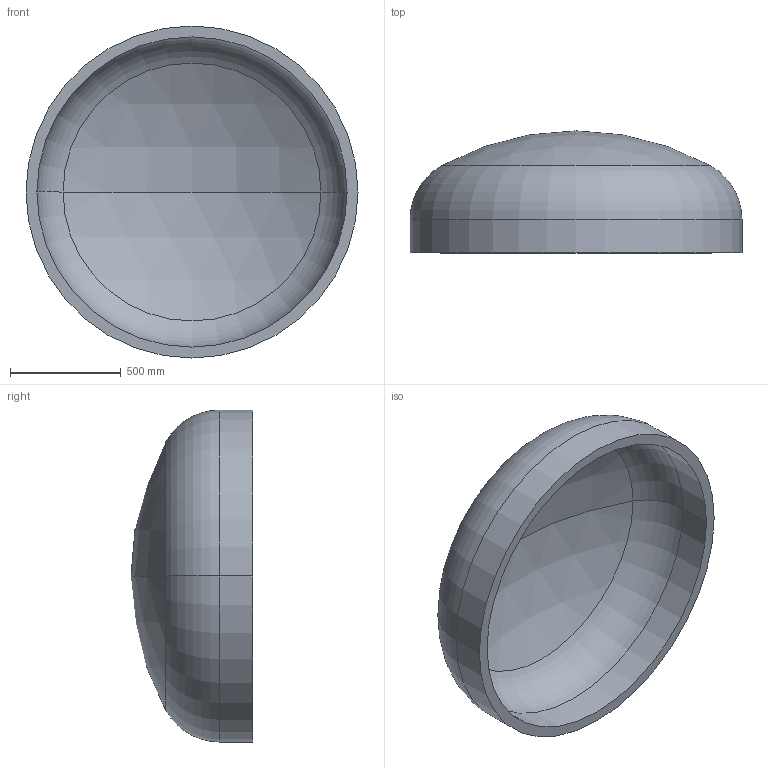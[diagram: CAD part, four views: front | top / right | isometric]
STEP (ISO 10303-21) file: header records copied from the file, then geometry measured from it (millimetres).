
FILE_DESCRIPTION (( 'STEP AP203' ), '1' );
FILE_NAME ('DIN 28013 Korbbogenform_-_Boden DIN 28013 - 1500 x 150 - I - s=49.step', '2016-07-01T10:48:42', ( '' ), ( '' ), 'SwSTEP 2.0', 'SolidWorks 2013', '' );
FILE_SCHEMA (( 'CONFIG_CONTROL_DESIGN' ));
Length unit declared in the file: millimetre
Products named in the file (1): DIN 28013 Korbbogenform_-_Boden DIN 28013 - 1500 x 150 - I - s=49
Bounding box: 1500 x 551.03 x 1500 mm (x, y, z)
Volume: 148330923.4 mm3; surface area: 6282714.5 mm2
Topology: 1 solids, 1 shells, 13 faces, 24 edges, 14 vertices
Faces by surface type: torus 4, cylinder 4, sphere 4, plane 1
Entity records: 407 total; most frequent: DIRECTION 72, CARTESIAN_POINT 52, ORIENTED_EDGE 48, AXIS2_PLACEMENT_3D 34, EDGE_CURVE 24, CIRCLE 20, EDGE_LOOP 14, VERTEX_POINT 14
